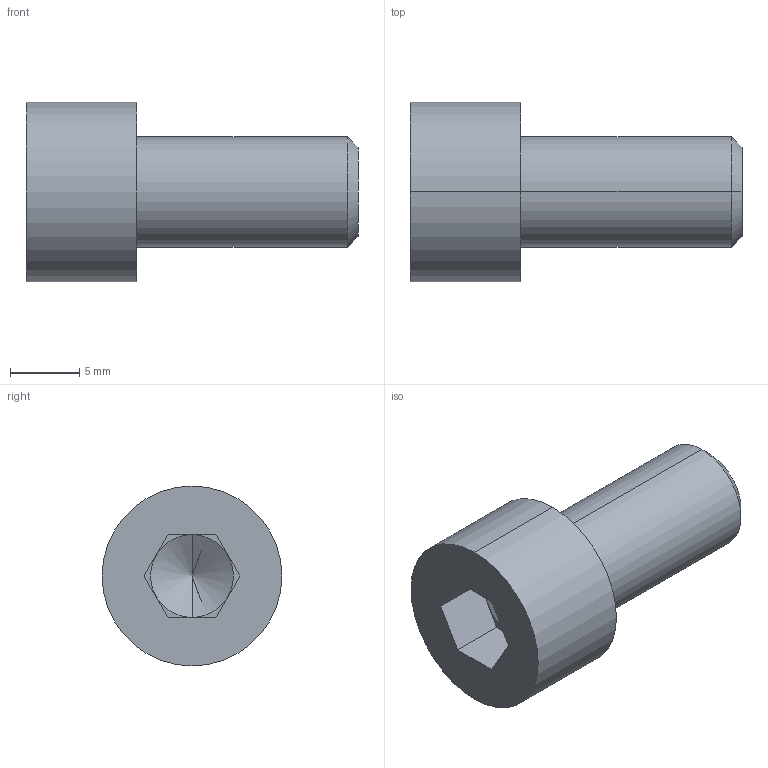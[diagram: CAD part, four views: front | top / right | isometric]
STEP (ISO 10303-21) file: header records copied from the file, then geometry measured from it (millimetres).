
FILE_DESCRIPTION (( 'STEP AP203' ), '1' );
FILE_NAME ('M8x16_DIN912.STEP', '2016-05-16T06:32:17', ( '' ), ( '' ), 'SwSTEP 2.0', 'SolidWorks 2014', '' );
FILE_SCHEMA (( 'CONFIG_CONTROL_DESIGN' ));
Length unit declared in the file: millimetre
Products named in the file (1): M8x16_DIN912
Bounding box: 24 x 13 x 13 mm (x, y, z)
Volume: 1718.3 mm3; surface area: 1069.7 mm2
Topology: 1 solids, 1 shells, 18 faces, 40 edges, 25 vertices
Faces by surface type: plane 10, cylinder 4, cone 4
Entity records: 563 total; most frequent: DIRECTION 88, CARTESIAN_POINT 82, ORIENTED_EDGE 76, EDGE_CURVE 38, AXIS2_PLACEMENT_3D 31, VECTOR 26, LINE 26, VERTEX_POINT 25
